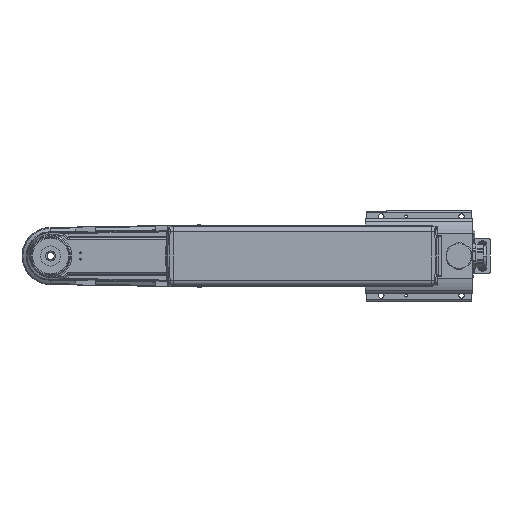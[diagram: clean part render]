
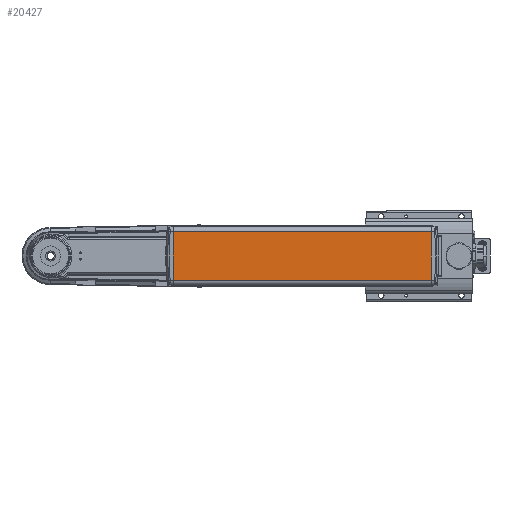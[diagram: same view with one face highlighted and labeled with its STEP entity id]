
A CAD part, front view. The second image highlights one B-rep face of the part: STEP entity #20427.
In plain terms, the highlighted planar face has unit normal (0, -1, 0).
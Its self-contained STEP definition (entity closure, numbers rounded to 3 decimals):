
#17347=CARTESIAN_POINT('',(59.993,-249.,
48.357));
#17973=CARTESIAN_POINT('',(-454.994,-249.,
-48.345));
#18005=DIRECTION('',(-1.,0.,0.));
#18006=VECTOR('',#18005,514.986);
#18007=CARTESIAN_POINT('',(59.993,-249.,
48.357));
#18008=LINE('',#18007,#18006);
#18009=DIRECTION('',(0.,0.,-1.));
#18010=VECTOR('',#18009,96.425);
#18011=CARTESIAN_POINT('',(-455.,-249.,
48.213));
#18012=LINE('',#18011,#18010);
#18013=CARTESIAN_POINT('',(-455.,-249.,
48.213));
#18014=CARTESIAN_POINT('',(-455.,-249.,
48.236));
#18015=CARTESIAN_POINT('',(-454.99,-249.,
48.284));
#18016=CARTESIAN_POINT('',(-454.999,-249.,
48.332));
#18017=CARTESIAN_POINT('',(-454.993,-249.,
48.357));
#18019=CARTESIAN_POINT('',(59.993,-249.,
48.357));
#18020=CARTESIAN_POINT('',(59.999,-249.,
48.332));
#18021=CARTESIAN_POINT('',(59.99,-249.,
48.284));
#18022=CARTESIAN_POINT('',(60.,-249.,48.236));
#18023=CARTESIAN_POINT('',(60.,-249.,48.213));
#18025=DIRECTION('',(0.,0.,-1.));
#18026=VECTOR('',#18025,96.425);
#18027=CARTESIAN_POINT('',(60.,-249.,48.213));
#18028=LINE('',#18027,#18026);
#18029=CARTESIAN_POINT('',(60.,-249.,
-48.213));
#18030=CARTESIAN_POINT('',(60.,-249.,
-48.234));
#18031=CARTESIAN_POINT('',(59.992,-249.,
-48.279));
#18032=CARTESIAN_POINT('',(59.999,-249.,
-48.322));
#18033=CARTESIAN_POINT('',(59.994,-249.,
-48.345));
#18035=CARTESIAN_POINT('',(-454.994,-249.,
-48.345));
#18036=CARTESIAN_POINT('',(-454.999,-249.,
-48.322));
#18037=CARTESIAN_POINT('',(-454.992,-249.,
-48.279));
#18038=CARTESIAN_POINT('',(-455.,-249.,-48.234));
#18039=CARTESIAN_POINT('',(-455.,-249.,-48.213));
#19073=DIRECTION('',(1.,0.,0.));
#19074=VECTOR('',#19073,514.988);
#19075=CARTESIAN_POINT('',(-454.994,-249.,
-48.345));
#19076=LINE('',#19075,#19074);
#19369=CARTESIAN_POINT('',(60.,-249.,48.213));
#19370=CARTESIAN_POINT('',(60.,-249.,
-48.213));
#19371=VERTEX_POINT('',#19369);
#19372=VERTEX_POINT('',#19370);
#19379=VERTEX_POINT('',#18033);
#19382=VERTEX_POINT('',#17347);
#19392=CARTESIAN_POINT('',(-455.,-249.,
48.213));
#19393=CARTESIAN_POINT('',(-455.,-249.,-48.213));
#19394=VERTEX_POINT('',#19392);
#19395=VERTEX_POINT('',#19393);
#19400=VERTEX_POINT('',#18017);
#19402=VERTEX_POINT('',#17973);
#20405=CARTESIAN_POINT('',(-197.5,-249.,0.006));
#20406=DIRECTION('',(0.,1.,0.));
#20407=DIRECTION('',(1.,0.,0.));
#20408=AXIS2_PLACEMENT_3D('',#20405,#20406,#20407);
#20409=PLANE('',#20408);
#20411=ORIENTED_EDGE('',*,*,#20410,.F.);
#20413=ORIENTED_EDGE('',*,*,#20412,.T.);
#20414=ORIENTED_EDGE('',*,*,#20393,.F.);
#20416=ORIENTED_EDGE('',*,*,#20415,.T.);
#20418=ORIENTED_EDGE('',*,*,#20417,.T.);
#20420=ORIENTED_EDGE('',*,*,#20419,.T.);
#20422=ORIENTED_EDGE('',*,*,#20421,.F.);
#20424=ORIENTED_EDGE('',*,*,#20423,.T.);
#20425=EDGE_LOOP('',(#20411,#20413,#20414,#20416,#20418,#20420,#20422,#20424));
#20426=FACE_OUTER_BOUND('',#20425,.F.);
#18018=B_SPLINE_CURVE_WITH_KNOTS('',3,(#18013,#18014,#18015,#18016,#18017),
.UNSPECIFIED.,.F.,.F.,(4,1,4),(0.,0.5,1.),.UNSPECIFIED.);
#18024=B_SPLINE_CURVE_WITH_KNOTS('',3,(#18019,#18020,#18021,#18022,#18023),
.UNSPECIFIED.,.F.,.F.,(4,1,4),(0.,0.5,1.),.UNSPECIFIED.);
#18034=B_SPLINE_CURVE_WITH_KNOTS('',3,(#18029,#18030,#18031,#18032,#18033),
.UNSPECIFIED.,.F.,.F.,(4,1,4),(0.,0.5,1.),.UNSPECIFIED.);
#18040=B_SPLINE_CURVE_WITH_KNOTS('',3,(#18035,#18036,#18037,#18038,#18039),
.UNSPECIFIED.,.F.,.F.,(4,1,4),(0.,0.5,1.),.UNSPECIFIED.);
#20393=EDGE_CURVE('',#19382,#19400,#18008,.T.);
#20410=EDGE_CURVE('',#19394,#19395,#18012,.T.);
#20412=EDGE_CURVE('',#19394,#19400,#18018,.T.);
#20415=EDGE_CURVE('',#19382,#19371,#18024,.T.);
#20417=EDGE_CURVE('',#19371,#19372,#18028,.T.);
#20419=EDGE_CURVE('',#19372,#19379,#18034,.T.);
#20421=EDGE_CURVE('',#19402,#19379,#19076,.T.);
#20423=EDGE_CURVE('',#19402,#19395,#18040,.T.);
#20427=ADVANCED_FACE('',(#20426),#20409,.F.);
